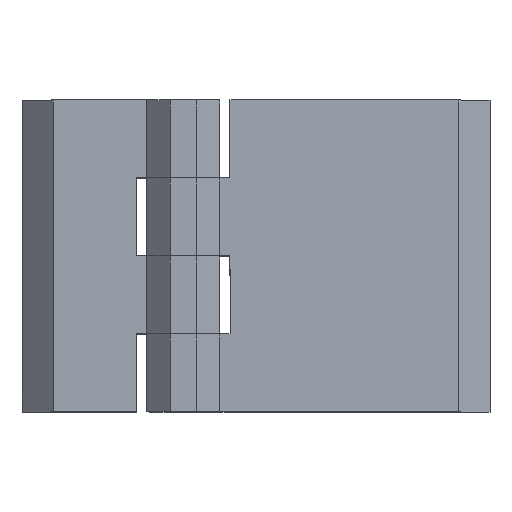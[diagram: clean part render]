
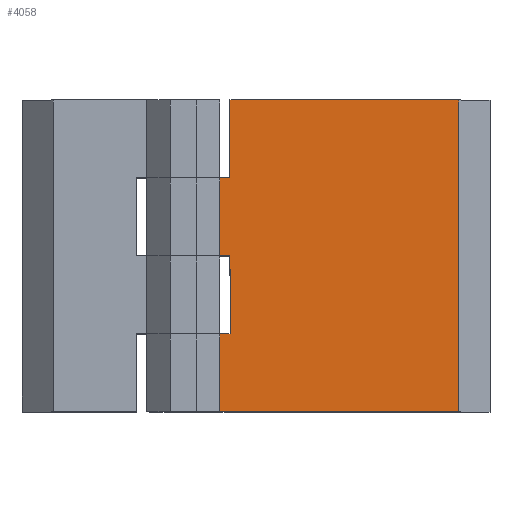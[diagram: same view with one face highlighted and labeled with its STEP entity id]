
A CAD part, top view. The second image highlights one B-rep face of the part: STEP entity #4058.
In plain terms, the highlighted planar face has unit normal (0, 0, 1) as drawn and (0, 1, 0) by its records, which use the part's own axes.
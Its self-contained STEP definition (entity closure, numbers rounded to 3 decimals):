
#1907 = CARTESIAN_POINT ( 'NONE',  ( 50., 8., 60. ) ) ;
#1947 = CARTESIAN_POINT ( 'NONE',  ( 52., 8., 0. ) ) ;
#1949 = CARTESIAN_POINT ( 'NONE',  ( 52., 8., 15. ) ) ;
#1954 = DIRECTION ( 'NONE',  ( 0., 0., -1. ) ) ;
#1955 = VECTOR ( 'NONE', #1954, 1000. ) ;
#1956 = CARTESIAN_POINT ( 'NONE',  ( 52., 8., 60. ) ) ;
#1964 = LINE ( 'NONE', #1956, #1955 ) ;
#2058 = DIRECTION ( 'NONE',  ( -1., 0., 0. ) ) ;
#2059 = VECTOR ( 'NONE', #2058, 1000. ) ;
#2061 = CARTESIAN_POINT ( 'NONE',  ( 6., 8., 60. ) ) ;
#2064 = DIRECTION ( 'NONE',  ( -1., 0., 0. ) ) ;
#2065 = VECTOR ( 'NONE', #2064, 1000. ) ;
#2066 = CARTESIAN_POINT ( 'NONE',  ( 52., 8., 0. ) ) ;
#2067 = LINE ( 'NONE', #2066, #2065 ) ;
#2068 = CARTESIAN_POINT ( 'NONE',  ( 52., 8., 60. ) ) ;
#2069 = LINE ( 'NONE', #2068, #2059 ) ;
#2071 = CARTESIAN_POINT ( 'NONE',  ( 6., 8., 0. ) ) ;
#2088 = CARTESIAN_POINT ( 'NONE',  ( 6., 8., 60. ) ) ;
#2089 = LINE ( 'NONE', #2088, #2131 ) ;
#2130 = DIRECTION ( 'NONE',  ( 0., 0., -1. ) ) ;
#2131 = VECTOR ( 'NONE', #2130, 1000. ) ;
#2184 = CARTESIAN_POINT ( 'NONE',  ( 50., 8., 30. ) ) ;
#2203 = CARTESIAN_POINT ( 'NONE',  ( 52., 8., 45. ) ) ;
#2205 = LINE ( 'NONE', #2257, #2256 ) ;
#2227 = AXIS2_PLACEMENT_3D ( 'NONE', #2250, #2240, #2239 ) ;
#2229 = DIRECTION ( 'NONE',  ( 0., 0., -1. ) ) ;
#2230 = VECTOR ( 'NONE', #2229, 1000. ) ;
#2231 = CARTESIAN_POINT ( 'NONE',  ( 50., 8., 60. ) ) ;
#2232 = LINE ( 'NONE', #2231, #2230 ) ;
#2234 = DIRECTION ( 'NONE',  ( 0., 0., -1. ) ) ;
#2235 = VECTOR ( 'NONE', #2234, 1000. ) ;
#2236 = CARTESIAN_POINT ( 'NONE',  ( 50., 8., 60. ) ) ;
#2237 = CARTESIAN_POINT ( 'NONE',  ( 50., 8., 45. ) ) ;
#2239 = DIRECTION ( 'NONE',  ( 1., 0., 0. ) ) ;
#2240 = DIRECTION ( 'NONE',  ( 0., -1., 0. ) ) ;
#2241 = LINE ( 'NONE', #2236, #2235 ) ;
#2247 = CARTESIAN_POINT ( 'NONE',  ( 50., 8., 15. ) ) ;
#2249 = PLANE ( 'NONE',  #2227 ) ;
#2250 = CARTESIAN_POINT ( 'NONE',  ( 52., 8., 60. ) ) ;
#2251 = FACE_OUTER_BOUND ( 'NONE', #4070, .T. ) ;
#2252 = DIRECTION ( 'NONE',  ( 1., 0., 0. ) ) ;
#2253 = VECTOR ( 'NONE', #2252, 1000. ) ;
#2254 = CARTESIAN_POINT ( 'NONE',  ( 52., 8., 45. ) ) ;
#2255 = DIRECTION ( 'NONE',  ( -1., 0., 0. ) ) ;
#2256 = VECTOR ( 'NONE', #2255, 1000. ) ;
#2257 = CARTESIAN_POINT ( 'NONE',  ( 52., 8., 30. ) ) ;
#2258 = LINE ( 'NONE', #2203, #2253 ) ;
#2264 = DIRECTION ( 'NONE',  ( 0., 0., -1. ) ) ;
#2265 = VECTOR ( 'NONE', #2264, 1000. ) ;
#2270 = CARTESIAN_POINT ( 'NONE',  ( 52., 8., 60. ) ) ;
#2271 = LINE ( 'NONE', #2270, #2265 ) ;
#2272 = DIRECTION ( 'NONE',  ( 1., 0., 0. ) ) ;
#2273 = VECTOR ( 'NONE', #2272, 1000. ) ;
#2274 = CARTESIAN_POINT ( 'NONE',  ( 52., 8., 30. ) ) ;
#2279 = CARTESIAN_POINT ( 'NONE',  ( 52., 8., 15. ) ) ;
#2280 = LINE ( 'NONE', #2279, #2273 ) ;
#3872 = VERTEX_POINT ( 'NONE', #1907 ) ;
#3875 = EDGE_CURVE ( 'NONE', #3878, #3880, #1964, .T. ) ;
#3878 = VERTEX_POINT ( 'NONE', #1949 ) ;
#3880 = VERTEX_POINT ( 'NONE', #1947 ) ;
#3928 = VERTEX_POINT ( 'NONE', #2071 ) ;
#3929 = EDGE_CURVE ( 'NONE', #3880, #3928, #2067, .T. ) ;
#3934 = EDGE_CURVE ( 'NONE', #3872, #3936, #2069, .T. ) ;
#3936 = VERTEX_POINT ( 'NONE', #2061 ) ;
#3965 = EDGE_CURVE ( 'NONE', #3936, #3928, #2089, .T. ) ;
#4023 = VERTEX_POINT ( 'NONE', #2184 ) ;
#4044 = ORIENTED_EDGE ( 'NONE', *, *, #3929, .T. ) ;
#4045 = ORIENTED_EDGE ( 'NONE', *, *, #3965, .F. ) ;
#4046 = ORIENTED_EDGE ( 'NONE', *, *, #4076, .T. ) ;
#4047 = ORIENTED_EDGE ( 'NONE', *, *, #4062, .T. ) ;
#4048 = EDGE_CURVE ( 'NONE', #4063, #4054, #2258, .T. ) ;
#4050 = ORIENTED_EDGE ( 'NONE', *, *, #4048, .T. ) ;
#4051 = EDGE_CURVE ( 'NONE', #4074, #4023, #2205, .T. ) ;
#4053 = VERTEX_POINT ( 'NONE', #2247 ) ;
#4054 = VERTEX_POINT ( 'NONE', #2254 ) ;
#4056 = ORIENTED_EDGE ( 'NONE', *, *, #3934, .F. ) ;
#4058 = ADVANCED_FACE ( 'NONE', ( #2251 ), #2249, .F. ) ;
#4059 = ORIENTED_EDGE ( 'NONE', *, *, #4073, .T. ) ;
#4060 = EDGE_CURVE ( 'NONE', #4023, #4053, #2241, .T. ) ;
#4061 = ORIENTED_EDGE ( 'NONE', *, *, #3875, .T. ) ;
#4062 = EDGE_CURVE ( 'NONE', #3872, #4063, #2232, .T. ) ;
#4063 = VERTEX_POINT ( 'NONE', #2237 ) ;
#4070 = EDGE_LOOP ( 'NONE', ( #4077, #4059, #4061, #4044, #4045, #4056, #4047, #4050, #4046, #4116 ) ) ;
#4073 = EDGE_CURVE ( 'NONE', #4053, #3878, #2280, .T. ) ;
#4074 = VERTEX_POINT ( 'NONE', #2274 ) ;
#4076 = EDGE_CURVE ( 'NONE', #4054, #4074, #2271, .T. ) ;
#4077 = ORIENTED_EDGE ( 'NONE', *, *, #4060, .T. ) ;
#4116 = ORIENTED_EDGE ( 'NONE', *, *, #4051, .T. ) ;
